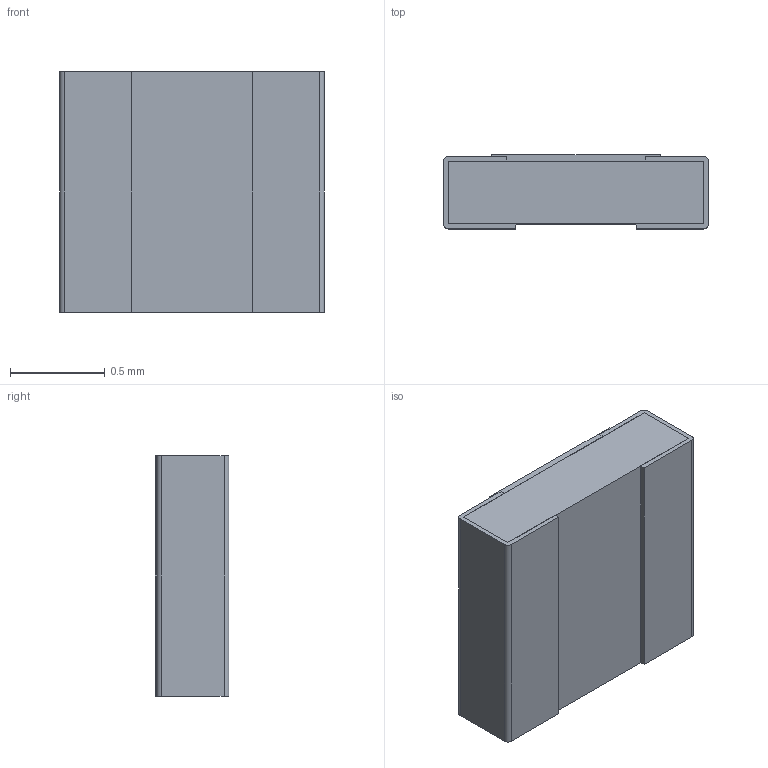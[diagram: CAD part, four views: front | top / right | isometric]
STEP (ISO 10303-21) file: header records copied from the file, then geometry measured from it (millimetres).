
FILE_DESCRIPTION(/* description */ (''),/* implementation_level */ '2;1');
FILE_NAME(/* name */ 'C:\Users\Public\Documents\Autodesk\Inventor LT 2014\Workspace\Vishay\STEP Files\PTN0505.stp',/* time_stamp */ '2020-01-08T14:53:05-06:00',/* author */ ('Neil'),/* organization */ (''),/* preprocessor_version */ 'ST-DEVELOPER v15.2',/* originating_system */ 'Autodesk Inventor LT ',/* authorisation */ '');
FILE_SCHEMA (('AUTOMOTIVE_DESIGN { 1 0 10303 214 3 1 1 }'));
Length unit declared in the file: inch
Products named in the file (1): PTN0505
Bounding box: 1.4 x 0.39 x 1.27 mm (x, y, z)
Volume: 0.7 mm3; surface area: 14.4 mm2
Topology: 5 solids, 5 shells, 82 faces, 216 edges, 144 vertices
Faces by surface type: plane 70, cylinder 12
Entity records: 2554 total; most frequent: CARTESIAN_POINT 443, ORIENTED_EDGE 432, DIRECTION 406, EDGE_CURVE 216, LINE 192, VECTOR 192, VERTEX_POINT 144, AXIS2_PLACEMENT_3D 107
